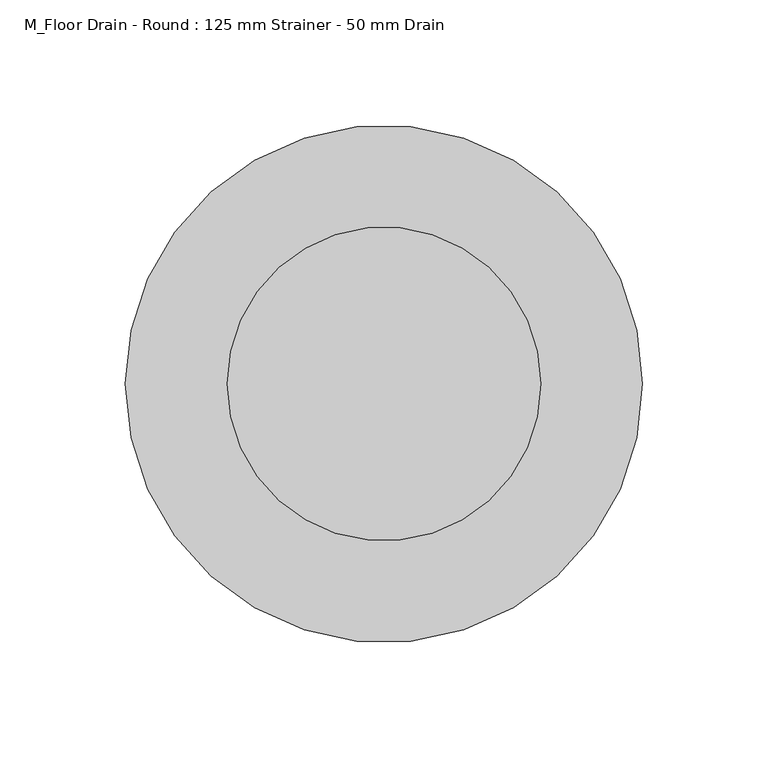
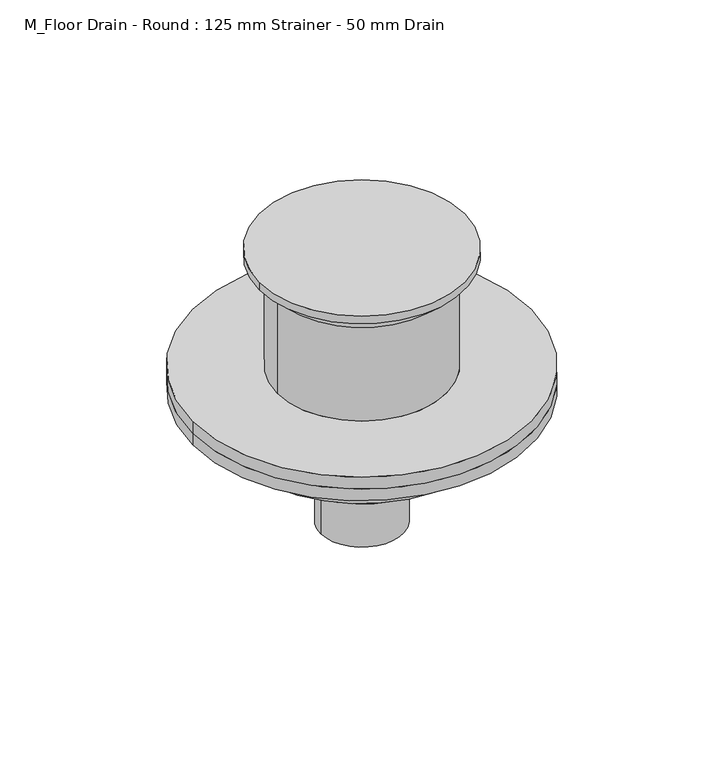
"""IFC4 building model written with IfcOpenShell, lengths in millimetres: flow terminal geometry, M_Floor Drain - Round : 125 mm Strainer - 50 mm Drain."""

from ifc_helpers import new_model, si_unit, frame, origin, place, context, project, spatial, polyline, circle_curve, source, transform, mapped, element, save
from ifc_brep_helpers import plane_surface, cylinder_surface, revolved_surface, advanced_brep


def m_floor_drain_round_125_mm_strainer_50_mm_drain_de9ab071(model_context):
    return source(origin(), model_context, "Body", "AdvancedBrep", [
        advanced_brep(
        [(103.0, 0.0, -75.38), (-103.0, 0.0, -75.38), (-51.5, 0.0, -75.38), (51.5, 0.0, -75.38), (103.0, 0.0, -83.0), (-103.0, 0.0, -83.0), (51.5, 0.0, -15.24), (-51.5, 0.0, -15.24), (-62.5, 0.0, -5.08), (62.5, 0.0, -5.08), (62.5, 0.0, 0.0), (-62.5, 0.0, 0.0)],
        [
            (0, 1, circle_curve(frame((0.0, 0.0, -75.38), z_axis=(0.0, 0.0, 1.0), x_axis=(-1.0, 0.0, 0.0)), 103.0)),
            (1, 0, circle_curve(frame((0.0, 0.0, -75.38), z_axis=(0.0, 0.0, 1.0), x_axis=(-1.0, 0.0, 0.0)), 103.0)),
            (2, 3, circle_curve(frame((0.0, 0.0, -75.38), z_axis=(0.0, 0.0, -1.0), x_axis=(-1.0, 0.0, 0.0)), 51.5)),
            (3, 2, circle_curve(frame((0.0, 0.0, -75.38), z_axis=(0.0, 0.0, -1.0), x_axis=(-1.0, 0.0, 0.0)), 51.5)),
            (4, 5, circle_curve(frame((0.0, 0.0, -83.0), z_axis=(0.0, 0.0, -1.0), x_axis=(-1.0, 0.0, 0.0)), 103.0)),
            (5, 4, circle_curve(frame((0.0, 0.0, -83.0), z_axis=(0.0, 0.0, -1.0), x_axis=(-1.0, 0.0, 0.0)), 103.0)),
            (0, 4),
            (5, 1),
            (6, 3),
            (2, 7),
            (7, 6, circle_curve(frame((0.0, 0.0, -15.24), z_axis=(0.0, 0.0, -1.0), x_axis=(-1.0, 0.0, 0.0)), 51.5)),
            (6, 7, circle_curve(frame((0.0, 0.0, -15.24), z_axis=(0.0, 0.0, -1.0), x_axis=(-1.0, 0.0, 0.0)), 51.5)),
            (7, 8),
            (8, 9, circle_curve(frame((0.0, 0.0, -5.08), z_axis=(0.0, 0.0, -1.0), x_axis=(-1.0, 0.0, 0.0)), 62.5)),
            (9, 6),
            (9, 8, circle_curve(frame((0.0, 0.0, -5.08), z_axis=(0.0, 0.0, -1.0), x_axis=(-1.0, 0.0, 0.0)), 62.5)),
            (10, 11, circle_curve(frame((0.0, 0.0, 0.0), z_axis=(0.0, 0.0, 1.0), x_axis=(-1.0, 0.0, 0.0)), 62.5)),
            (11, 10, circle_curve(frame((0.0, 0.0, 0.0), z_axis=(0.0, 0.0, 1.0), x_axis=(-1.0, 0.0, 0.0)), 62.5)),
            (10, 9),
            (8, 11),
        ],
        [
            plane_surface(frame((-103.0, 0.0, -75.38), z_axis=(0.0, 0.0, 1.0), x_axis=(0.0, -1.0, 0.0))),
            plane_surface(frame((-103.0, 0.0, -83.0), z_axis=(0.0, 0.0, -1.0), x_axis=(0.0, 1.0, 0.0))),
            cylinder_surface(frame((0.0, 0.0, -83.0), z_axis=(0.0, 0.0, 1.0), x_axis=(-1.0, 0.0, 0.0)), 103.0),
            cylinder_surface(frame((0.0, 0.0, -75.38), z_axis=(0.0, 0.0, 1.0), x_axis=(-1.0, 0.0, 0.0)), 51.5),
            revolved_surface(polyline([(-62.5, 0.0, -5.08), (-51.5, 0.0, -15.24)]), (0.0, 0.0, 44.45), (0.0, 0.0, -1.0)),
            plane_surface(frame((-62.5, 0.0, 0.0), z_axis=(0.0, 0.0, 1.0), x_axis=(0.0, -1.0, 0.0))),
            cylinder_surface(frame((0.0, 0.0, -5.08), z_axis=(0.0, 0.0, 1.0), x_axis=(-1.0, 0.0, 0.0)), 62.5),
        ],
        [
            (0, [[1, 2], [3, 4]]),
            (1, [[5, 6]]),
            (2, [[-1, 7, -6, 8]]),
            (2, [[-2, -8, -5, -7]]),
            (3, [[9, -3, 10, 11]]),
            (3, [[-9, 12, -10, -4]]),
            (4, [[13, 14, 15, -11]]),
            (4, [[-13, -12, -15, 16]]),
            (5, [[17, 18]]),
            (6, [[-17, 19, -14, 20]]),
            (6, [[-18, -20, -16, -19]]),
        ],
    ),
        advanced_brep(
        [(25.0, 0.0, -175.0), (-25.0, 0.0, -175.0), (-25.0, 0.0, -129.0), (25.0, 0.0, -129.0), (51.0, 0.0, -129.0), (-51.0, 0.0, -129.0), (-51.0, 0.0, -110.6), (51.0, 0.0, -110.6), (77.0, 0.0, -110.6), (-77.0, 0.0, -110.6), (-77.0, 0.0, -90.62), (77.0, 0.0, -90.62), (103.0, 0.0, -83.0), (-103.0, 0.0, -83.0), (103.0, 0.0, -90.62), (-103.0, 0.0, -90.62)],
        [
            (0, 1, circle_curve(frame((0.0, 0.0, -175.0), z_axis=(0.0, 0.0, -1.0), x_axis=(-1.0, 0.0, 0.0)), 25.0)),
            (1, 0, circle_curve(frame((0.0, 0.0, -175.0), z_axis=(0.0, 0.0, -1.0), x_axis=(-1.0, 0.0, 0.0)), 25.0)),
            (1, 2),
            (2, 3, circle_curve(frame((0.0, 0.0, -129.0), z_axis=(0.0, 0.0, -1.0), x_axis=(-1.0, 0.0, 0.0)), 25.0)),
            (3, 0),
            (3, 2, circle_curve(frame((0.0, 0.0, -129.0), z_axis=(0.0, 0.0, -1.0), x_axis=(-1.0, 0.0, 0.0)), 25.0)),
            (4, 5, circle_curve(frame((0.0, 0.0, -129.0), z_axis=(0.0, 0.0, -1.0), x_axis=(-1.0, 0.0, 0.0)), 51.0)),
            (5, 4, circle_curve(frame((0.0, 0.0, -129.0), z_axis=(0.0, 0.0, -1.0), x_axis=(-1.0, 0.0, 0.0)), 51.0)),
            (5, 6),
            (6, 7, circle_curve(frame((0.0, 0.0, -110.6), z_axis=(0.0, 0.0, -1.0), x_axis=(-1.0, 0.0, 0.0)), 51.0)),
            (7, 4),
            (7, 6, circle_curve(frame((0.0, 0.0, -110.6), z_axis=(0.0, 0.0, -1.0), x_axis=(-1.0, 0.0, 0.0)), 51.0)),
            (8, 9, circle_curve(frame((0.0, 0.0, -110.6), z_axis=(0.0, 0.0, -1.0), x_axis=(-1.0, 0.0, 0.0)), 77.0)),
            (9, 8, circle_curve(frame((0.0, 0.0, -110.6), z_axis=(0.0, 0.0, -1.0), x_axis=(-1.0, 0.0, 0.0)), 77.0)),
            (9, 10),
            (10, 11, circle_curve(frame((0.0, 0.0, -90.62), z_axis=(0.0, 0.0, -1.0), x_axis=(-1.0, 0.0, 0.0)), 77.0)),
            (11, 8),
            (11, 10, circle_curve(frame((0.0, 0.0, -90.62), z_axis=(0.0, 0.0, -1.0), x_axis=(-1.0, 0.0, 0.0)), 77.0)),
            (12, 13, circle_curve(frame((0.0, 0.0, -83.0), z_axis=(0.0, 0.0, 1.0), x_axis=(-1.0, 0.0, 0.0)), 103.0)),
            (13, 12, circle_curve(frame((0.0, 0.0, -83.0), z_axis=(0.0, 0.0, 1.0), x_axis=(-1.0, 0.0, 0.0)), 103.0)),
            (14, 15, circle_curve(frame((0.0, 0.0, -90.62), z_axis=(0.0, 0.0, -1.0), x_axis=(-1.0, 0.0, 0.0)), 103.0)),
            (15, 14, circle_curve(frame((0.0, 0.0, -90.62), z_axis=(0.0, 0.0, -1.0), x_axis=(-1.0, 0.0, 0.0)), 103.0)),
            (12, 14),
            (15, 13),
        ],
        [
            plane_surface(frame((-25.0, 0.0, -175.0), z_axis=(0.0, 0.0, -1.0), x_axis=(0.0, 1.0, 0.0))),
            cylinder_surface(frame((0.0, 0.0, -175.0), z_axis=(0.0, 0.0, 1.0), x_axis=(-1.0, 0.0, 0.0)), 25.0),
            plane_surface(frame((-51.0, 0.0, -129.0), z_axis=(0.0, 0.0, -1.0), x_axis=(0.0, 1.0, 0.0))),
            cylinder_surface(frame((0.0, 0.0, -129.0), z_axis=(0.0, 0.0, 1.0), x_axis=(-1.0, 0.0, 0.0)), 51.0),
            plane_surface(frame((-77.0, 0.0, -110.6), z_axis=(0.0, 0.0, -1.0), x_axis=(0.0, 1.0, 0.0))),
            cylinder_surface(frame((0.0, 0.0, -110.6), z_axis=(0.0, 0.0, 1.0), x_axis=(-1.0, 0.0, 0.0)), 77.0),
            plane_surface(frame((-103.0, 0.0, -83.0), z_axis=(0.0, 0.0, 1.0), x_axis=(0.0, -1.0, 0.0))),
            plane_surface(frame((-103.0, 0.0, -90.62), z_axis=(0.0, 0.0, -1.0), x_axis=(0.0, 1.0, 0.0))),
            cylinder_surface(frame((0.0, 0.0, -90.62), z_axis=(0.0, 0.0, 1.0), x_axis=(-1.0, 0.0, 0.0)), 103.0),
        ],
        [
            (0, [[1, 2]]),
            (1, [[-2, 3, 4, 5]]),
            (1, [[-1, -5, 6, -3]]),
            (2, [[7, 8], [-4, -6]]),
            (3, [[-8, 9, 10, 11]]),
            (3, [[-7, -11, 12, -9]]),
            (4, [[13, 14], [-10, -12]]),
            (5, [[-14, 15, 16, 17]]),
            (5, [[-13, -17, 18, -15]]),
            (6, [[19, 20]]),
            (7, [[21, 22], [-16, -18]]),
            (8, [[-19, 23, -22, 24]]),
            (8, [[-20, -24, -21, -23]]),
        ],
    ),
    ])


if __name__ == "__main__":
    model = new_model("IFC4")
    model_context = context("Model", 3, world=origin())
    ifc_project = project(units=[si_unit("LENGTHUNIT", "METRE", prefix="MILLI")], contexts=[model_context])
    site = spatial("IfcSite", under=ifc_project)
    building = spatial("IfcBuilding", under=site)
    placement = place(None, origin())
    m_floor_drain_round_125_mm_strainer_50_mm_drain_shape = m_floor_drain_round_125_mm_strainer_50_mm_drain_de9ab071(model_context)
    element("IfcFlowTerminal", 1, ObjectType="M_Floor Drain - Round : 125 mm Strainer - 50 mm Drain", at=placement, inside=building, context=model_context, shape_type="MappedRepresentation", body=[
        mapped(m_floor_drain_round_125_mm_strainer_50_mm_drain_shape, transform((0.0, 0.0, 0.0), x_axis=(1.0, 0.0, 0.0), y_axis=(0.0, 1.0, 0.0), z_axis=(0.0, 0.0, 1.0))),
    ])
    save(model, "model.ifc")
